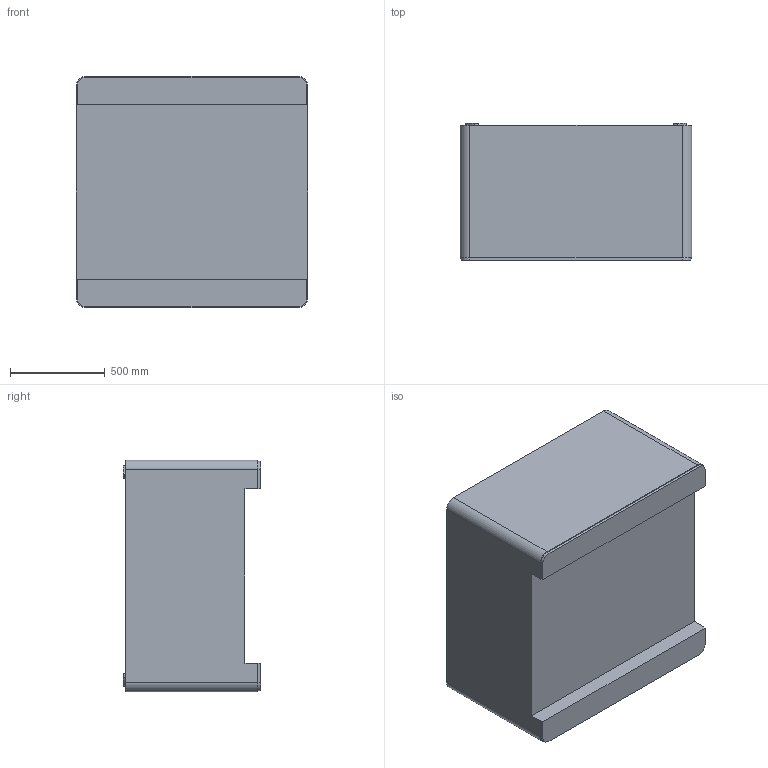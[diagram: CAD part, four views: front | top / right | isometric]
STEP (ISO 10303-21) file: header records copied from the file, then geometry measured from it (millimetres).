
FILE_DESCRIPTION (( 'STEP AP214' ), '1' );
FILE_NAME ('29FV 2-Way Block Model.STEP', '2016-10-18T14:48:30', ( '' ), ( '' ), 'SwSTEP 2.0', 'SolidWorks 2016', '' );
FILE_SCHEMA (( 'AUTOMOTIVE_DESIGN' ));
Length unit declared in the file: inch
Products named in the file (1): 29FV 2-Way Block Model
Bounding box: 1219.2 x 722.63 x 1219.2 mm (x, y, z)
Volume: 247663345.9 mm3; surface area: 8847215.8 mm2
Topology: 1 solids, 1 shells, 59 faces, 160 edges, 104 vertices
Faces by surface type: plane 35, cylinder 20, torus 4
Entity records: 1902 total; most frequent: CARTESIAN_POINT 372, ORIENTED_EDGE 320, DIRECTION 316, EDGE_CURVE 160, AXIS2_PLACEMENT_3D 112, VERTEX_POINT 104, VECTOR 92, LINE 92
